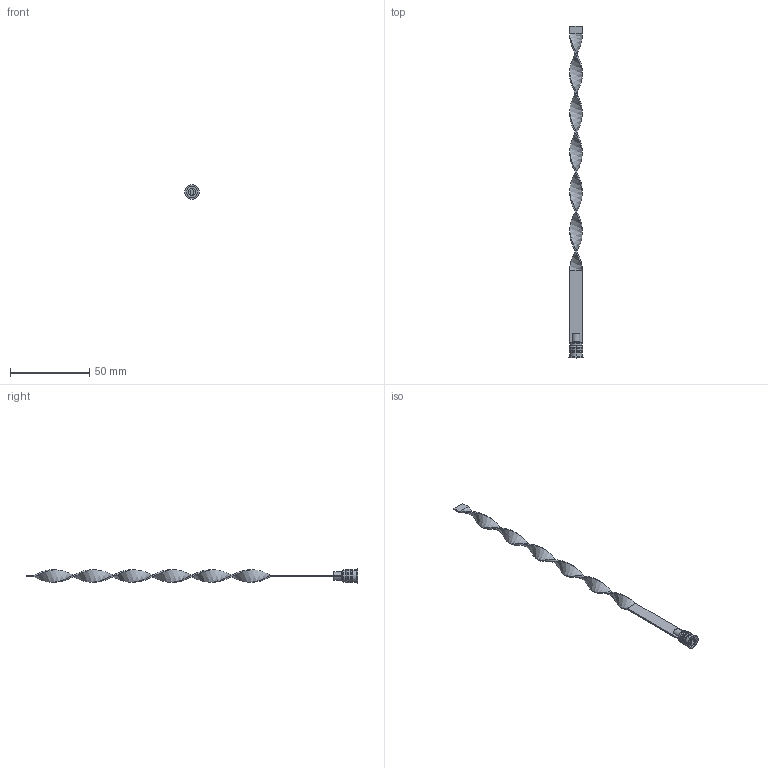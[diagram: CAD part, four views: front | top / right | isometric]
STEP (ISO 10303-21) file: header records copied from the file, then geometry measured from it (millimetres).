
FILE_DESCRIPTION (( 'STEP AP203' ), '1' );
FILE_NAME ('RLS-8Fx200.STEP', '2015-12-04T14:29:14', ( 'Balzi' ), ( '' ), 'SwSTEP 2.0', 'SolidWorks 2015', '' );
FILE_SCHEMA (( 'CONFIG_CONTROL_DESIGN' ));
Length unit declared in the file: millimetre
Products named in the file (1): RLS-8Fx200
Bounding box: 9 x 209.5 x 9 mm (x, y, z)
Volume: 2051 mm3; surface area: 4173.5 mm2
Topology: 1 solids, 1 shells, 80 faces, 187 edges, 113 vertices
Faces by surface type: plane 34, cone 17, cylinder 17, torus 8, bspline 4
Entity records: 4205 total; most frequent: CARTESIAN_POINT 2307, DIRECTION 390, ORIENTED_EDGE 374, EDGE_CURVE 187, AXIS2_PLACEMENT_3D 144, VERTEX_POINT 113, LINE 102, VECTOR 102
